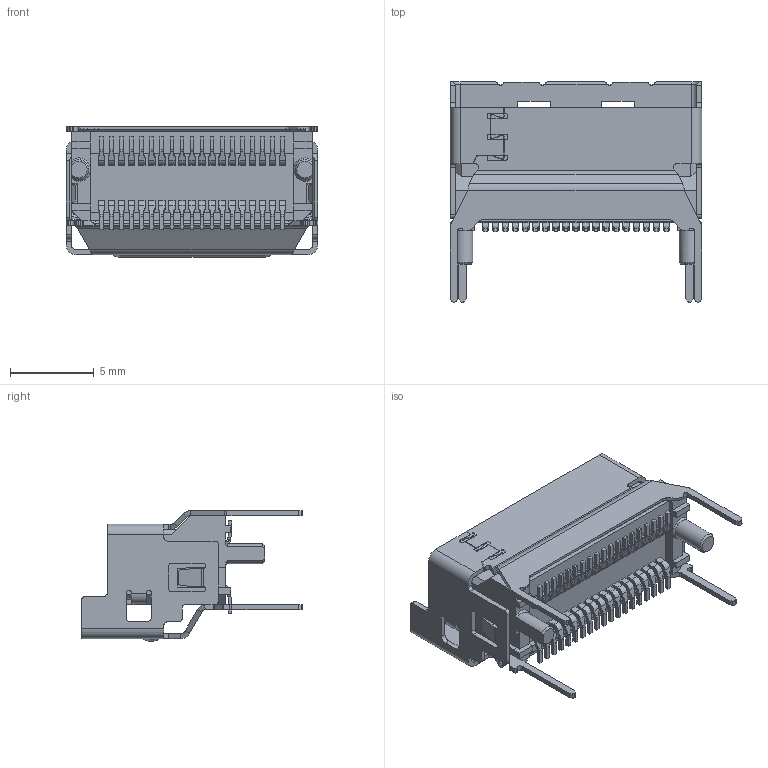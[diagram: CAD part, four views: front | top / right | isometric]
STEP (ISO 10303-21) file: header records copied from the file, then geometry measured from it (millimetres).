
FILE_DESCRIPTION((''),'2;1');
FILE_NAME('02V232X10H0000','2024-05-16T22:35:42',('ZL'),(''),'CREO PARAMETRIC BY PTC INC, 2020053','CREO PARAMETRIC BY PTC INC, 2020053','');
FILE_SCHEMA(('AUTOMOTIVE_DESIGN { 1 0 10303 214 1 1 1 1 }'));
Products named in the file (1): 02V232X10H0000
Bounding box: 15 x 13.15 x 7.77 mm (x, y, z)
Volume: 432.6 mm3; surface area: 1321.4 mm2
Topology: 1 solids, 1 shells, 2389 faces, 6848 edges, 4494 vertices
Faces by surface type: plane 1372, cylinder 913, torus 78, cone 14, bspline 12
Entity records: 80200 total; most frequent: CARTESIAN_POINT 15516, ORIENTED_EDGE 13696, DIRECTION 13264, EDGE_CURVE 6848, VECTOR 4761, LINE 4761, VERTEX_POINT 4494, AXIS2_PLACEMENT_3D 4250
